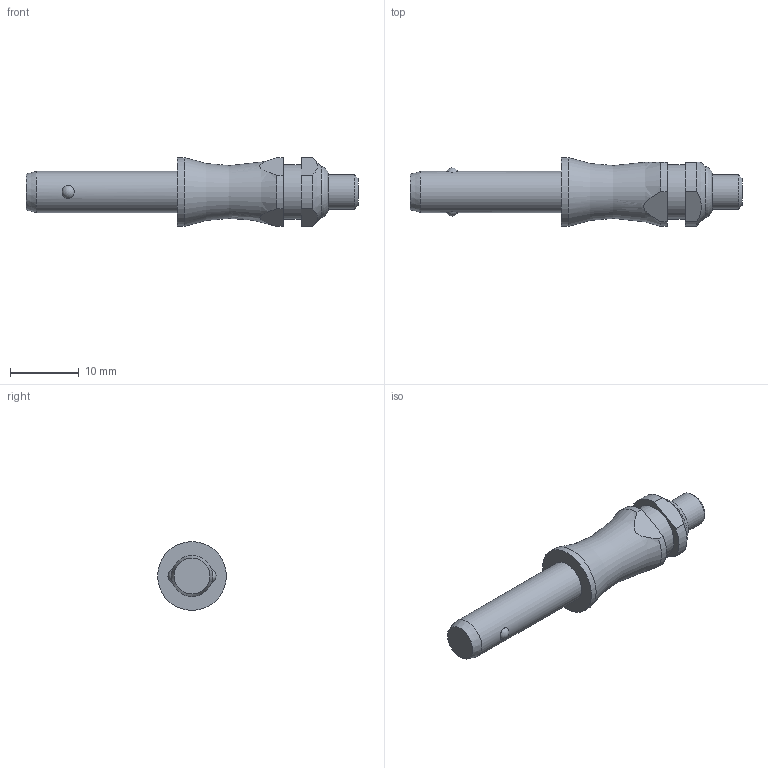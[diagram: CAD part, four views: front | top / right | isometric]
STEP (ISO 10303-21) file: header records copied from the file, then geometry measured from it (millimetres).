
FILE_DESCRIPTION( ( 'STEP AP203' ), '1' );
FILE_NAME( 'C:/Temp/Ganter_Step_05_03_2020/data/3_1/gn113_3/Stainless Steel-Ball lock pin GN 113.3-6-15 (deactivated).stp', '2020-03-12T08:18:15', ( 'License CC BY-ND 4.0' ), ( 'CADENAS' ), ' ', 'PARTsolutions', ' ' );
FILE_SCHEMA( ( 'CONFIG_CONTROL_DESIGN' ) );
Length unit declared in the file: millimetre
Products named in the file (1): _Stainless Steel-Ball lock pin GN 113.3-6-15 (deactivated)
Bounding box: 48.3 x 10 x 10 mm (x, y, z)
Volume: 1958.8 mm3; surface area: 1234.6 mm2
Topology: 1 solids, 1 shells, 29 faces, 61 edges, 40 vertices
Faces by surface type: plane 12, cylinder 10, cone 3, torus 2, sphere 2
Full cylindrical faces by diameter (mm): 5 x1, 6 x1, 7.9 x1, 10 x1
Entity records: 918 total; most frequent: CARTESIAN_POINT 288, DIRECTION 126, ORIENTED_EDGE 100, AXIS2_PLACEMENT_3D 54, EDGE_CURVE 50, EDGE_LOOP 44, VERTEX_POINT 38, FACE_OUTER_BOUND 35
